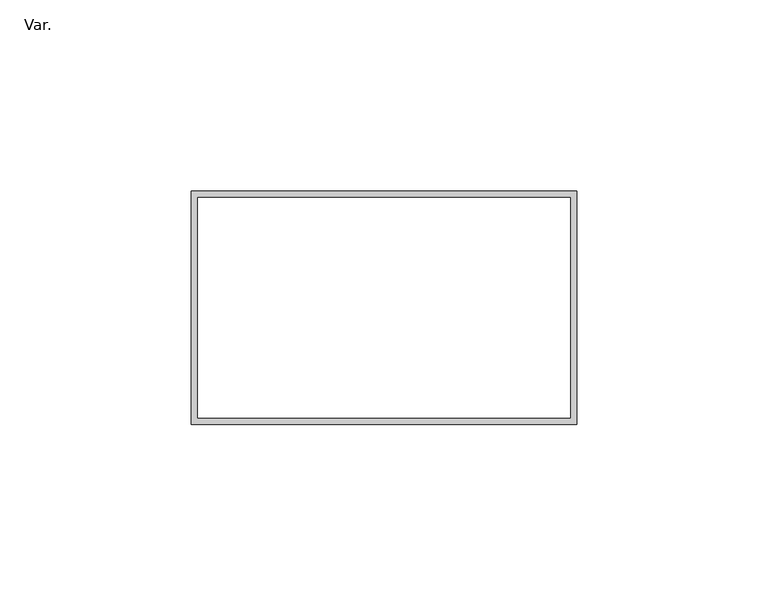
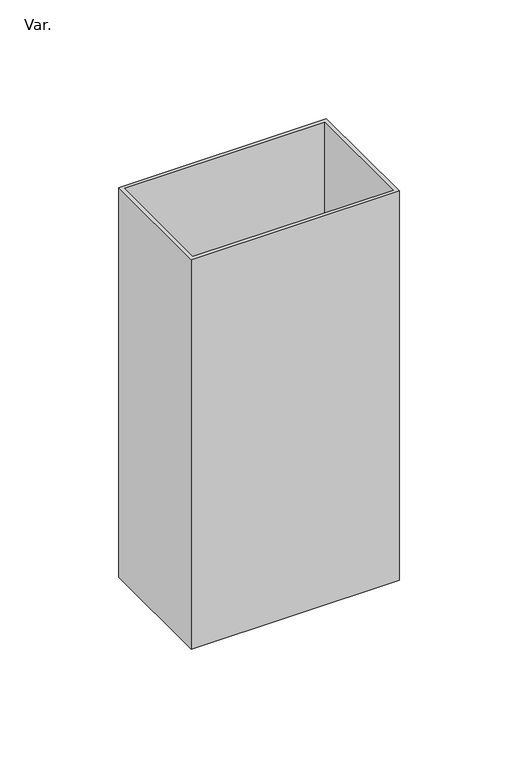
"""IFC4 building model written with IfcOpenShell, lengths in millimetres: pipe fitting geometry, AmancoWavin_Unionesdetubería_CanalesyBajantesZ_NoUsarBajanteRectangular : Var.."""

from ifc_helpers import new_model, si_unit, frame, origin, place, context, project, spatial, polyline, outline, extrude, source, transform, mapped, element, save


def var_0e961320(model_context):
    return source(origin(), model_context, "Body", "SweptSolid", [
        extrude(outline(polyline([(50.42, 30.55), (50.42, -30.55), (-50.42, -30.55), (-50.42, 30.55), (50.42, 30.55)]), holes=[polyline([(48.66, 28.79), (-48.66, 28.79), (-48.66, -28.79), (48.66, -28.79), (48.66, 28.79)])]), frame((0.0, 0.0, -200.0), z_axis=(0.0, 0.0, 1.0), x_axis=(1.0, 0.0, 0.0)), (0.0, 0.0, 1.0), 200.0),
    ])


if __name__ == "__main__":
    model = new_model("IFC4")
    model_context = context("Model", 3, world=origin())
    ifc_project = project(units=[si_unit("LENGTHUNIT", "METRE", prefix="MILLI")], contexts=[model_context])
    site = spatial("IfcSite", under=ifc_project)
    building = spatial("IfcBuilding", under=site)
    placement = place(None, origin())
    var_shape = var_0e961320(model_context)
    element("IfcPipeFitting", 1, ObjectType="AmancoWavin_Unionesdetubería_CanalesyBajantesZ_NoUsarBajanteRectangular : Var.", at=placement, inside=building, context=model_context, shape_type="MappedRepresentation", body=[
        mapped(var_shape, transform((0.0, 0.0, 0.0), x_axis=(1.0, 0.0, 0.0), y_axis=(0.0, 1.0, 0.0), z_axis=(0.0, 0.0, 1.0))),
    ])
    save(model, "model.ifc")
